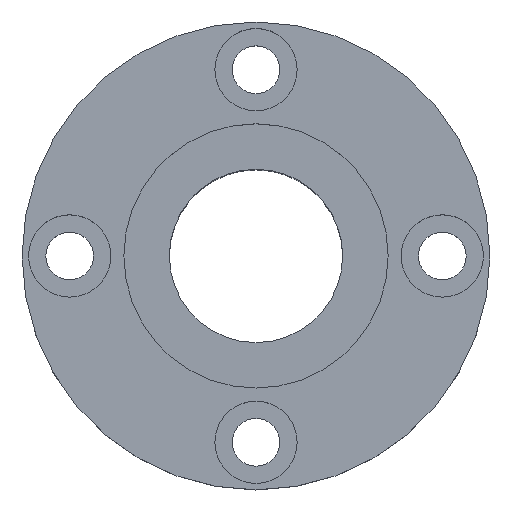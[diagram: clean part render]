
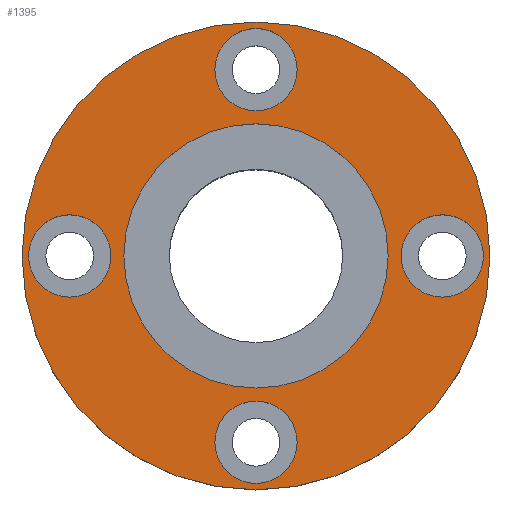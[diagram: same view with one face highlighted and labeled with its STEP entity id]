
A CAD part, top view. The second image highlights one B-rep face of the part: STEP entity #1395.
In plain terms, the highlighted planar face has unit normal (0, 0, 1).
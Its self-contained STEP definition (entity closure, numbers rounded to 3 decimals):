
#133=CARTESIAN_POINT('',(-15.25,0.,22.5));
#134=VERTEX_POINT('',#133);
#143=CARTESIAN_POINT('',(15.25,0.,22.5));
#144=VERTEX_POINT('',#143);
#145=CARTESIAN_POINT('',(0.0,0.0,22.5));
#146=DIRECTION('',(0.0,0.0,-1.0));
#147=DIRECTION('',(-1.0,0.0,0.0));
#148=AXIS2_PLACEMENT_3D('',#145,#146,#147);
#149=CIRCLE('',#148,15.25);
#150=EDGE_CURVE('',#144,#134,#149,.T.);
#217=CARTESIAN_POINT('',(-27.0,0.,22.5));
#218=VERTEX_POINT('',#217);
#227=CARTESIAN_POINT('',(27.0,0.,22.5));
#228=VERTEX_POINT('',#227);
#229=CARTESIAN_POINT('',(0.0,0.0,22.5));
#230=DIRECTION('',(0.0,0.0,-1.0));
#231=DIRECTION('',(-1.0,0.0,0.0));
#232=AXIS2_PLACEMENT_3D('',#229,#230,#231);
#233=CIRCLE('',#232,27.0);
#234=EDGE_CURVE('',#218,#228,#233,.T.);
#345=CARTESIAN_POINT('',(26.25,0.0,22.5));
#346=VERTEX_POINT('',#345);
#362=CARTESIAN_POINT('',(16.75,0.,22.5));
#363=VERTEX_POINT('',#362);
#370=CARTESIAN_POINT('',(21.5,0.0,22.5));
#371=DIRECTION('',(0.0,0.0,-1.0));
#372=DIRECTION('',(1.0,0.0,0.0));
#373=AXIS2_PLACEMENT_3D('',#370,#371,#372);
#374=CIRCLE('',#373,4.75);
#375=EDGE_CURVE('',#346,#363,#374,.T.);
#471=CARTESIAN_POINT('',(0.,26.25,22.5));
#472=VERTEX_POINT('',#471);
#488=CARTESIAN_POINT('',(0.,16.75,22.5));
#489=VERTEX_POINT('',#488);
#496=CARTESIAN_POINT('',(0.,21.5,22.5));
#497=DIRECTION('',(0.0,0.0,-1.0));
#498=DIRECTION('',(0.0,1.0,0.0));
#499=AXIS2_PLACEMENT_3D('',#496,#497,#498);
#500=CIRCLE('',#499,4.75);
#501=EDGE_CURVE('',#472,#489,#500,.T.);
#597=CARTESIAN_POINT('',(-26.25,0.,22.5));
#598=VERTEX_POINT('',#597);
#614=CARTESIAN_POINT('',(-16.75,0.,22.5));
#615=VERTEX_POINT('',#614);
#622=CARTESIAN_POINT('',(-21.5,0.,22.5));
#623=DIRECTION('',(0.0,0.0,-1.0));
#624=DIRECTION('',(-1.0,0.0,0.0));
#625=AXIS2_PLACEMENT_3D('',#622,#623,#624);
#626=CIRCLE('',#625,4.75);
#627=EDGE_CURVE('',#598,#615,#626,.T.);
#723=CARTESIAN_POINT('',(0.,-26.25,22.5));
#724=VERTEX_POINT('',#723);
#740=CARTESIAN_POINT('',(0.,-16.75,22.5));
#741=VERTEX_POINT('',#740);
#748=CARTESIAN_POINT('',(0.,-21.5,22.5));
#749=DIRECTION('',(0.0,0.0,-1.0));
#750=DIRECTION('',(0.0,-1.0,0.0));
#751=AXIS2_PLACEMENT_3D('',#748,#749,#750);
#752=CIRCLE('',#751,4.75);
#753=EDGE_CURVE('',#724,#741,#752,.T.);
#811=CARTESIAN_POINT('',(0.,-21.5,22.5));
#812=DIRECTION('',(0.0,0.0,-1.0));
#813=DIRECTION('',(0.0,-1.0,0.0));
#814=AXIS2_PLACEMENT_3D('',#811,#812,#813);
#815=CIRCLE('',#814,4.75);
#816=EDGE_CURVE('',#741,#724,#815,.T.);
#915=CARTESIAN_POINT('',(-21.5,0.,22.5));
#916=DIRECTION('',(0.0,0.0,-1.0));
#917=DIRECTION('',(-1.0,0.0,0.0));
#918=AXIS2_PLACEMENT_3D('',#915,#916,#917);
#919=CIRCLE('',#918,4.75);
#920=EDGE_CURVE('',#615,#598,#919,.T.);
#1019=CARTESIAN_POINT('',(0.,21.5,22.5));
#1020=DIRECTION('',(0.0,0.0,-1.0));
#1021=DIRECTION('',(0.0,1.0,0.0));
#1022=AXIS2_PLACEMENT_3D('',#1019,#1020,#1021);
#1023=CIRCLE('',#1022,4.75);
#1024=EDGE_CURVE('',#489,#472,#1023,.T.);
#1123=CARTESIAN_POINT('',(21.5,0.0,22.5));
#1124=DIRECTION('',(0.0,0.0,-1.0));
#1125=DIRECTION('',(1.0,0.0,0.0));
#1126=AXIS2_PLACEMENT_3D('',#1123,#1124,#1125);
#1127=CIRCLE('',#1126,4.75);
#1128=EDGE_CURVE('',#363,#346,#1127,.T.);
#1188=CARTESIAN_POINT('',(0.0,0.0,22.5));
#1189=DIRECTION('',(0.0,0.0,-1.0));
#1190=DIRECTION('',(-1.0,0.0,0.0));
#1191=AXIS2_PLACEMENT_3D('',#1188,#1189,#1190);
#1192=CIRCLE('',#1191,27.0);
#1193=EDGE_CURVE('',#228,#218,#1192,.T.);
#1306=CARTESIAN_POINT('',(0.0,0.0,22.5));
#1307=DIRECTION('',(0.0,0.0,-1.0));
#1308=DIRECTION('',(-1.0,0.0,0.0));
#1309=AXIS2_PLACEMENT_3D('',#1306,#1307,#1308);
#1310=CIRCLE('',#1309,15.25);
#1311=EDGE_CURVE('',#134,#144,#1310,.T.);
#1366=CARTESIAN_POINT('',(0.0,0.0,22.5));
#1367=DIRECTION('',(0.0,0.0,-1.0));
#1368=DIRECTION('',(-1.0,0.0,0.0));
#1369=AXIS2_PLACEMENT_3D('',#1366,#1367,#1368);
#1370=PLANE('',#1369);
#1371=ORIENTED_EDGE('',*,*,#1193,.F.);
#1372=ORIENTED_EDGE('',*,*,#234,.F.);
#1373=EDGE_LOOP('',(#1371,#1372));
#1374=FACE_OUTER_BOUND('',#1373,.T.);
#1375=ORIENTED_EDGE('',*,*,#753,.T.);
#1376=ORIENTED_EDGE('',*,*,#816,.T.);
#1377=EDGE_LOOP('',(#1375,#1376));
#1378=FACE_BOUND('',#1377,.T.);
#1379=ORIENTED_EDGE('',*,*,#627,.T.);
#1380=ORIENTED_EDGE('',*,*,#920,.T.);
#1381=EDGE_LOOP('',(#1379,#1380));
#1382=FACE_BOUND('',#1381,.T.);
#1383=ORIENTED_EDGE('',*,*,#501,.T.);
#1384=ORIENTED_EDGE('',*,*,#1024,.T.);
#1385=EDGE_LOOP('',(#1383,#1384));
#1386=FACE_BOUND('',#1385,.T.);
#1387=ORIENTED_EDGE('',*,*,#375,.T.);
#1388=ORIENTED_EDGE('',*,*,#1128,.T.);
#1389=EDGE_LOOP('',(#1387,#1388));
#1390=FACE_BOUND('',#1389,.T.);
#1391=ORIENTED_EDGE('',*,*,#150,.T.);
#1392=ORIENTED_EDGE('',*,*,#1311,.T.);
#1393=EDGE_LOOP('',(#1391,#1392));
#1394=FACE_BOUND('',#1393,.T.);
#1395=ADVANCED_FACE('',(#1374,#1378,#1382,#1386,#1390,#1394),#1370,.F.);
